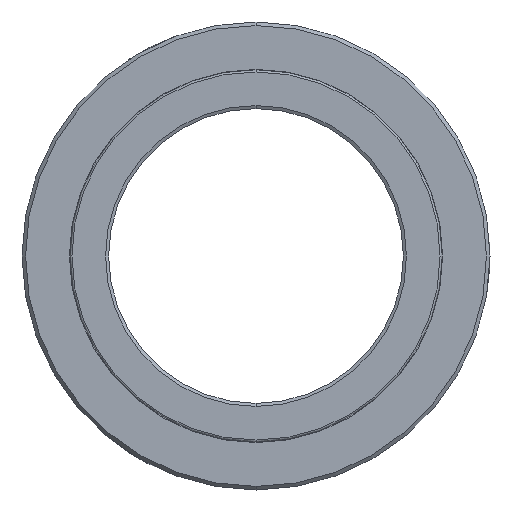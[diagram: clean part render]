
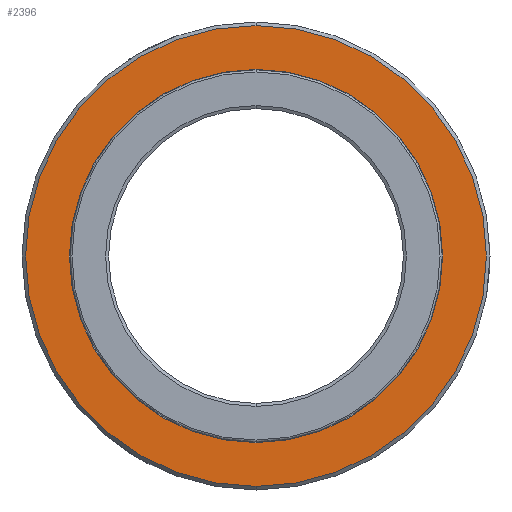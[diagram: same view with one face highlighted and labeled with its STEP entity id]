
A CAD part, front view. The second image highlights one B-rep face of the part: STEP entity #2396.
In plain terms, the highlighted planar face has unit normal (0, -1, 0).
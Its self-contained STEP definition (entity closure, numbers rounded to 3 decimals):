
#441 = CIRCLE ( 'NONE', #486, 32.17 ) ;
#486 = AXIS2_PLACEMENT_3D ( 'NONE', #3127, #3128, #3129 ) ;
#490 = AXIS2_PLACEMENT_3D ( 'NONE', #4628, #4640, #4641 ) ;
#646 = VERTEX_POINT ( 'NONE', #871 ) ;
#647 = VERTEX_POINT ( 'NONE', #872 ) ;
#823 = VERTEX_POINT ( 'NONE', #1048 ) ;
#842 = VERTEX_POINT ( 'NONE', #1067 ) ;
#871 = CARTESIAN_POINT ( 'NONE',  ( 0., 0., 26.055 ) ) ;
#872 = CARTESIAN_POINT ( 'NONE',  ( 0., 0., -26.055 ) ) ;
#1048 = CARTESIAN_POINT ( 'NONE',  ( 0., 0., -32.17 ) ) ;
#1067 = CARTESIAN_POINT ( 'NONE',  ( 0., 0., 32.17 ) ) ;
#1339 = ORIENTED_EDGE ( 'NONE', *, *, #5370, .F. ) ;
#1340 = ORIENTED_EDGE ( 'NONE', *, *, #5513, .F. ) ;
#1341 = ORIENTED_EDGE ( 'NONE', *, *, #2426, .T. ) ;
#1343 = ORIENTED_EDGE ( 'NONE', *, *, #5512, .T. ) ;
#1670 = CARTESIAN_POINT ( 'NONE',  ( 0., 0., 0. ) ) ;
#1671 = DIRECTION ( 'NONE',  ( 0., -1., 0. ) ) ;
#1672 = DIRECTION ( 'NONE',  ( 0., 0., -1. ) ) ;
#1674 = CARTESIAN_POINT ( 'NONE',  ( 0., 0., 0. ) ) ;
#1675 = DIRECTION ( 'NONE',  ( 0., -1., 0. ) ) ;
#1676 = DIRECTION ( 'NONE',  ( 0., 0., -1. ) ) ;
#1814 = CARTESIAN_POINT ( 'NONE',  ( 0., 0., 0. ) ) ;
#1815 = DIRECTION ( 'NONE',  ( 0., -1., 0. ) ) ;
#1816 = DIRECTION ( 'NONE',  ( 0., 0., -1. ) ) ;
#2396 = ADVANCED_FACE ( 'NONE', ( #4637, #4633 ), #4638, .T. ) ;
#2426 = EDGE_CURVE ( 'NONE', #823, #842, #441, .T. ) ;
#3127 = CARTESIAN_POINT ( 'NONE',  ( 0., 0., 0. ) ) ;
#3128 = DIRECTION ( 'NONE',  ( 0., -1., 0. ) ) ;
#3129 = DIRECTION ( 'NONE',  ( 0., 0., -1. ) ) ;
#3860 = CIRCLE ( 'NONE', #3864, 26.055 ) ;
#3864 = AXIS2_PLACEMENT_3D ( 'NONE', #1814, #1815, #1816 ) ;
#4052 = CIRCLE ( 'NONE', #4055, 32.17 ) ;
#4054 = CIRCLE ( 'NONE', #4057, 26.055 ) ;
#4055 = AXIS2_PLACEMENT_3D ( 'NONE', #1670, #1671, #1672 ) ;
#4057 = AXIS2_PLACEMENT_3D ( 'NONE', #1674, #1675, #1676 ) ;
#4628 = CARTESIAN_POINT ( 'NONE',  ( 32.17, 0., 0. ) ) ;
#4633 = FACE_BOUND ( 'NONE', #4977, .T. ) ;
#4637 = FACE_OUTER_BOUND ( 'NONE', #4972, .T. ) ;
#4638 = PLANE ( 'NONE',  #490 ) ;
#4640 = DIRECTION ( 'NONE',  ( 0., -1., 0. ) ) ;
#4641 = DIRECTION ( 'NONE',  ( 0., 0., -1. ) ) ;
#4972 = EDGE_LOOP ( 'NONE', ( #1343, #1341 ) ) ;
#4977 = EDGE_LOOP ( 'NONE', ( #1340, #1339 ) ) ;
#5370 = EDGE_CURVE ( 'NONE', #646, #647, #3860, .T. ) ;
#5512 = EDGE_CURVE ( 'NONE', #842, #823, #4052, .T. ) ;
#5513 = EDGE_CURVE ( 'NONE', #647, #646, #4054, .T. ) ;
